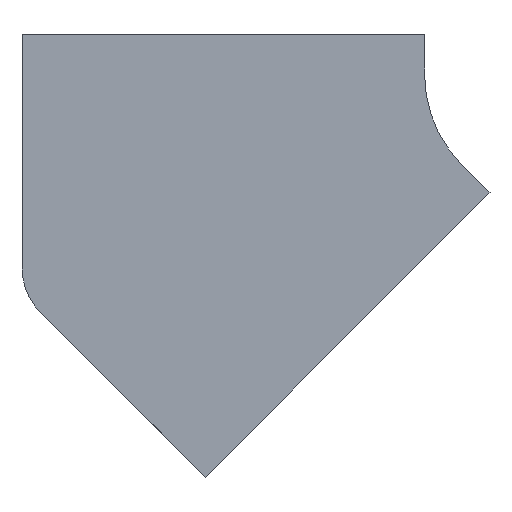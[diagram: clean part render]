
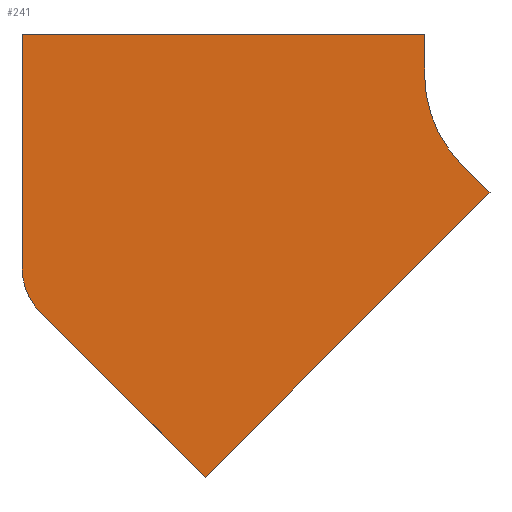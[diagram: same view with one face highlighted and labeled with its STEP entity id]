
A CAD part, front view. The second image highlights one B-rep face of the part: STEP entity #241.
In plain terms, the highlighted planar face has unit normal (0, -1, 0).
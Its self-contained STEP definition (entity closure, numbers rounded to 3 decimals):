
#5 = VECTOR ( 'NONE', #254, 1000. ) ;
#15 = CARTESIAN_POINT ( 'NONE',  ( -342.947, 0., -399.515 ) ) ;
#43 = CARTESIAN_POINT ( 'NONE',  ( 0., 0., 0. ) ) ;
#51 = DIRECTION ( 'NONE',  ( 0., -1., 0. ) ) ;
#78 = EDGE_CURVE ( 'NONE', #1431, #935, #825, .T. ) ;
#99 = DIRECTION ( 'NONE',  ( 0., 0., -1. ) ) ;
#120 = CARTESIAN_POINT ( 'NONE',  ( -342.947, 0., -399.515 ) ) ;
#122 = CARTESIAN_POINT ( 'NONE',  ( -525., 0., 40. ) ) ;
#153 = CARTESIAN_POINT ( 'NONE',  ( -525., 0., -191.574 ) ) ;
#161 = VECTOR ( 'NONE', #237, 1000. ) ;
#176 = CARTESIAN_POINT ( 'NONE',  ( -60.104, 0., -116.673 ) ) ;
#228 = EDGE_CURVE ( 'NONE', #1184, #1072, #627, .T. ) ;
#237 = DIRECTION ( 'NONE',  ( -0.707, 0., -0.707 ) ) ;
#241 = ADVANCED_FACE ( 'NONE', ( #1639 ), #1287, .T. ) ;
#251 = VECTOR ( 'NONE', #698, 1000. ) ;
#254 = DIRECTION ( 'NONE',  ( 0.707, 0., -0.707 ) ) ;
#270 = CARTESIAN_POINT ( 'NONE',  ( -462.5, 0., -191.574 ) ) ;
#294 = AXIS2_PLACEMENT_3D ( 'NONE', #742, #1009, #99 ) ;
#436 = DIRECTION ( 'NONE',  ( 1., 0., 0. ) ) ;
#486 = ORIENTED_EDGE ( 'NONE', *, *, #1394, .F. ) ;
#513 = VECTOR ( 'NONE', #1025, 1000. ) ;
#547 = EDGE_CURVE ( 'NONE', #774, #1431, #936, .T. ) ;
#559 = VECTOR ( 'NONE', #436, 1000. ) ;
#596 = CIRCLE ( 'NONE', #841, 62.5 ) ;
#618 = CARTESIAN_POINT ( 'NONE',  ( -60.104, 0., -116.673 ) ) ;
#627 = LINE ( 'NONE', #618, #161 ) ;
#634 = ORIENTED_EDGE ( 'NONE', *, *, #1153, .F. ) ;
#662 = DIRECTION ( 'NONE',  ( 0., 0., 1. ) ) ;
#674 = VECTOR ( 'NONE', #1192, 1000. ) ;
#696 = VERTEX_POINT ( 'NONE', #1270 ) ;
#698 = DIRECTION ( 'NONE',  ( 0., 0., 1. ) ) ;
#742 = CARTESIAN_POINT ( 'NONE',  ( 0., 0., 0. ) ) ;
#774 = VERTEX_POINT ( 'NONE', #153 ) ;
#816 = EDGE_CURVE ( 'NONE', #935, #696, #1555, .T. ) ;
#825 = LINE ( 'NONE', #1243, #559 ) ;
#830 = EDGE_CURVE ( 'NONE', #1132, #1184, #1186, .T. ) ;
#841 = AXIS2_PLACEMENT_3D ( 'NONE', #270, #1050, #662 ) ;
#849 = ORIENTED_EDGE ( 'NONE', *, *, #228, .F. ) ;
#900 = VERTEX_POINT ( 'NONE', #1099 ) ;
#912 = EDGE_CURVE ( 'NONE', #696, #1132, #1366, .T. ) ;
#916 = CARTESIAN_POINT ( 'NONE',  ( -88.388, 0., -88.388 ) ) ;
#918 = ORIENTED_EDGE ( 'NONE', *, *, #816, .F. ) ;
#935 = VERTEX_POINT ( 'NONE', #965 ) ;
#936 = LINE ( 'NONE', #1242, #251 ) ;
#946 = ORIENTED_EDGE ( 'NONE', *, *, #830, .F. ) ;
#950 = AXIS2_PLACEMENT_3D ( 'NONE', #43, #51, #1376 ) ;
#965 = CARTESIAN_POINT ( 'NONE',  ( -125., 0., 40. ) ) ;
#997 = EDGE_LOOP ( 'NONE', ( #1256, #1614, #634, #486, #849, #946, #1617, #918 ) ) ;
#1009 = DIRECTION ( 'NONE',  ( 0., -1., 0. ) ) ;
#1025 = DIRECTION ( 'NONE',  ( 0., 0., -1. ) ) ;
#1050 = DIRECTION ( 'NONE',  ( 0., 1., 0. ) ) ;
#1072 = VERTEX_POINT ( 'NONE', #120 ) ;
#1099 = CARTESIAN_POINT ( 'NONE',  ( -506.694, 0., -235.768 ) ) ;
#1132 = VERTEX_POINT ( 'NONE', #1299 ) ;
#1153 = EDGE_CURVE ( 'NONE', #900, #774, #596, .T. ) ;
#1183 = LINE ( 'NONE', #15, #674 ) ;
#1184 = VERTEX_POINT ( 'NONE', #176 ) ;
#1186 = LINE ( 'NONE', #916, #5 ) ;
#1192 = DIRECTION ( 'NONE',  ( -0.707, 0., 0.707 ) ) ;
#1242 = CARTESIAN_POINT ( 'NONE',  ( -525., 0., -191.574 ) ) ;
#1243 = CARTESIAN_POINT ( 'NONE',  ( -525., 0., 40. ) ) ;
#1256 = ORIENTED_EDGE ( 'NONE', *, *, #78, .F. ) ;
#1270 = CARTESIAN_POINT ( 'NONE',  ( -125., 0., 0. ) ) ;
#1287 = PLANE ( 'NONE',  #294 ) ;
#1299 = CARTESIAN_POINT ( 'NONE',  ( -88.388, 0., -88.388 ) ) ;
#1303 = CARTESIAN_POINT ( 'NONE',  ( -125., 0., 40. ) ) ;
#1366 = CIRCLE ( 'NONE', #950, 125. ) ;
#1376 = DIRECTION ( 'NONE',  ( 0., 0., -1. ) ) ;
#1394 = EDGE_CURVE ( 'NONE', #1072, #900, #1183, .T. ) ;
#1431 = VERTEX_POINT ( 'NONE', #122 ) ;
#1555 = LINE ( 'NONE', #1303, #513 ) ;
#1614 = ORIENTED_EDGE ( 'NONE', *, *, #547, .F. ) ;
#1617 = ORIENTED_EDGE ( 'NONE', *, *, #912, .F. ) ;
#1639 = FACE_OUTER_BOUND ( 'NONE', #997, .T. ) ;
